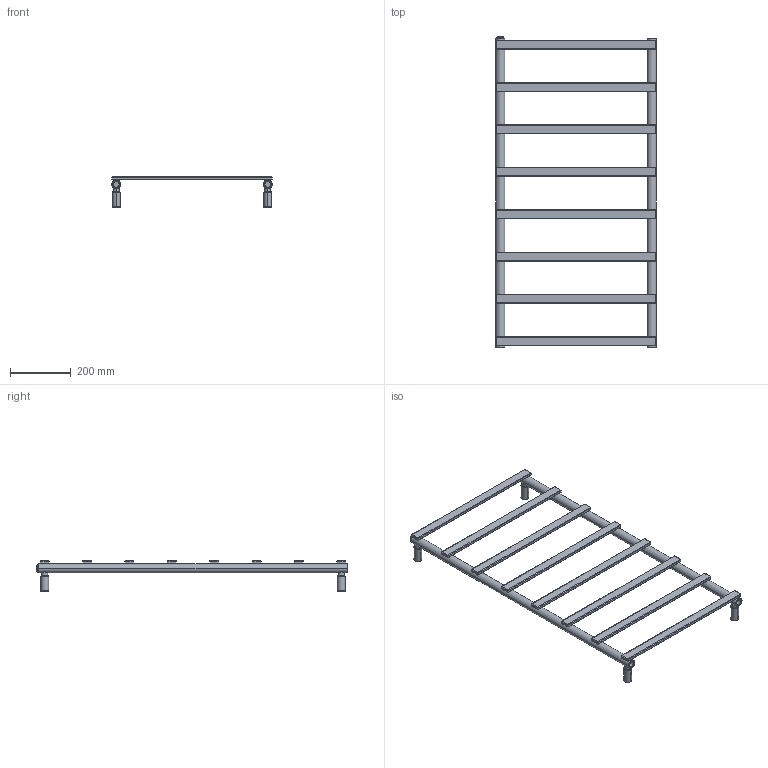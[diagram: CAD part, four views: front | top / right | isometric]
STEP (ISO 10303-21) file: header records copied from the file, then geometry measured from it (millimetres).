
FILE_DESCRIPTION((''),'2;1');
FILE_NAME('3551680400004_3D_SITO_ASM','2023-12-04T08:54:35',('PC132'),(''),'CREO PARAMETRIC BY PTC INC, 2023092','CREO PARAMETRIC BY PTC INC, 2023092','');
FILE_SCHEMA(('AUTOMOTIVE_DESIGN { 1 0 10303 214 1 1 1 1 }'));
Length unit declared in the file: millimetre
Products named in the file (3): 2551680500004_3D_SITO; 1041001240010; 3551680400004_3D_SITO_ASM
Assembly tree (2 placements, depth 2):
  3551680400004_3D_SITO_ASM
    2551680500004_3D_SITO
    1041001240010
Bounding box: 530 x 1026.6 x 100 mm (x, y, z)
Volume: 2807442.8 mm3; surface area: 552324.8 mm2
Topology: 12 solids, 12 shells, 332 faces, 647 edges, 352 vertices
Faces by surface type: cylinder 134, plane 94, bspline 64, torus 34, cone 6
Entity records: 27627 total; most frequent: CARTESIAN_POINT 16543, DIRECTION 1385, ORIENTED_EDGE 1294, PRESENTATION_STYLE_ASSIGNMENT 715, STYLED_ITEM 711, CURVE_STYLE 699, EDGE_CURVE 647, AXIS2_PLACEMENT_3D 522
